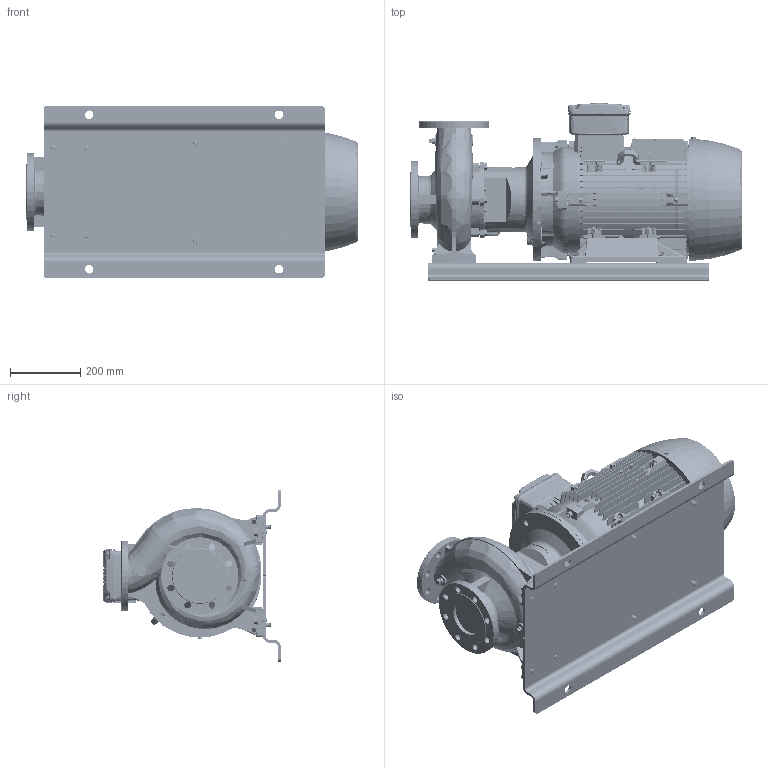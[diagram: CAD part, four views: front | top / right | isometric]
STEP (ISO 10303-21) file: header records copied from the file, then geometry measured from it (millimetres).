
FILE_DESCRIPTION (( 'STEP AP214' ), '1' );
FILE_NAME ('GSD2 80-160_22.0_(180ML)_W21_BP.STEP', '2024-08-02T02:16:36', ( '' ), ( '' ), 'SwSTEP 2.0', 'SolidWorks 2019', '' );
FILE_SCHEMA (( 'AUTOMOTIVE_DESIGN' ));
Length unit declared in the file: millimetre
Products named in the file (15): Parametric bolt and washer_SFT-A305B; Parametric Flat Washer_M12; Parametric bolt_SFT-A299B; N5S3 GSDA-538 F1-1832929-00; GSD2  80-160_22.0_(180ML)_W21_BP; Parametric bolt and washer_SFT-A299B; Parametric bolt_SFT-A305B; 180M_L ALIE3_W21T_B35; 80-160-180M_L_______
Assembly tree (27 placements, depth 3):
  GSD2  80-160_22.0_(180ML)_W21_BP
    80-160-180M_L_______
    N5S3 GSDA-538 F1-1832929-00
    Parametric bolt and washer_SFT-A299B
      Parametric bolt_SFT-A299B
      Parametric Flat Washer_M12
    Parametric bolt and washer_SFT-A299B
      Parametric bolt_SFT-A299B
      Parametric Flat Washer_M12
    Parametric bolt and washer_SFT-A299B
      Parametric bolt_SFT-A299B
      Parametric Flat Washer_M12
    Parametric bolt and washer_SFT-A299B
      Parametric bolt_SFT-A299B
      Parametric Flat Washer_M12
    Parametric bolt and washer_SFT-A305B
      Parametric bolt_SFT-A305B
      Parametric Flat Washer_M12
    Parametric bolt and washer_SFT-A305B
      Parametric bolt_SFT-A305B
      Parametric Flat Washer_M12
    Parametric bolt and washer_SFT-A305B
      Parametric bolt_SFT-A305B
      Parametric Flat Washer_M12
    Parametric bolt and washer_SFT-A305B
      Parametric bolt_SFT-A305B
      Parametric Flat Washer_M12
    180M_L ALIE3_W21T_B35
Bounding box: 944.8 x 504.53 x 490 mm (x, y, z)
Volume: 65125648.3 mm3; surface area: 4186353.9 mm2
Topology: 44 solids, 44 shells, 6219 faces, 16144 edges, 10451 vertices
Faces by surface type: plane 3769, cylinder 1129, cone 585, bspline 441, torus 279, sphere 16
Entity records: 215581 total; most frequent: CARTESIAN_POINT 77381, ORIENTED_EDGE 30396, DIRECTION 25677, EDGE_CURVE 15198, VERTEX_POINT 9848, LINE 9617, VECTOR 9617, AXIS2_PLACEMENT_3D 8030
